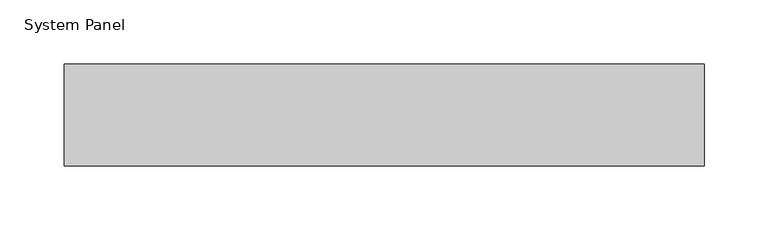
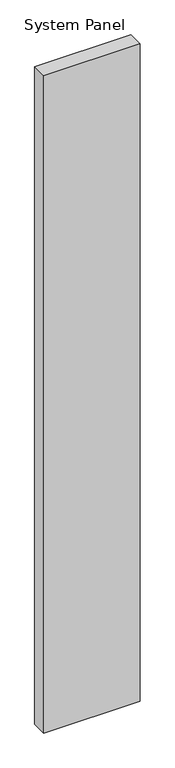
"""IFC4 building model written with IfcOpenShell, lengths in millimetres: plate geometry, System Panel : Inspire 80mm Vertical - Plain RHEA-PIR."""

from ifc_helpers import new_model, si_unit, origin, origin_with_axes, place, context, project, spatial, polyline, outline, extrude, source, transform, mapped, element, save


def system_panel_bf6df981(model_context):
    return source(origin(), model_context, "Body", "SweptSolid", [
        extrude(outline(polyline([(250.0, 0.0), (-250.0, 0.0), (-250.0, 80.0), (250.0, 80.0), (250.0, 0.0)])), origin_with_axes(), (0.0, 0.0, 1.0), 3600.0),
    ])


if __name__ == "__main__":
    model = new_model("IFC4")
    model_context = context("Model", 3, world=origin())
    ifc_project = project(units=[si_unit("LENGTHUNIT", "METRE", prefix="MILLI")], contexts=[model_context])
    site = spatial("IfcSite", under=ifc_project)
    building = spatial("IfcBuilding", under=site)
    placement = place(None, origin())
    system_panel_shape = system_panel_bf6df981(model_context)
    element("IfcPlate", 1, ObjectType="System Panel : Inspire 80mm Vertical - Plain RHEA-PIR", at=placement, inside=building, context=model_context, shape_type="MappedRepresentation", body=[
        mapped(system_panel_shape, transform((0.0, 0.0, 0.0), x_axis=(1.0, 0.0, 0.0), y_axis=(0.0, 1.0, 0.0), z_axis=(0.0, 0.0, 1.0))),
    ])
    save(model, "model.ifc")
